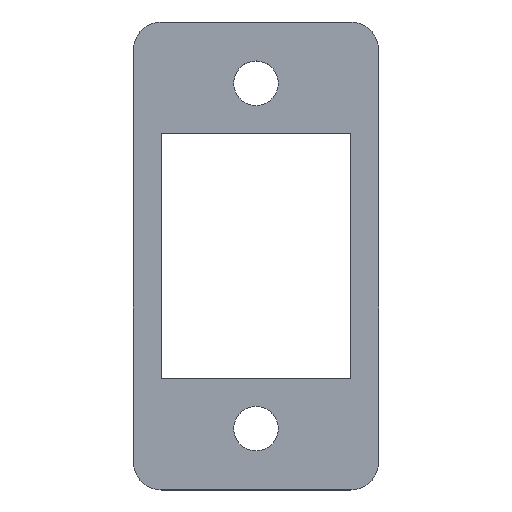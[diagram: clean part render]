
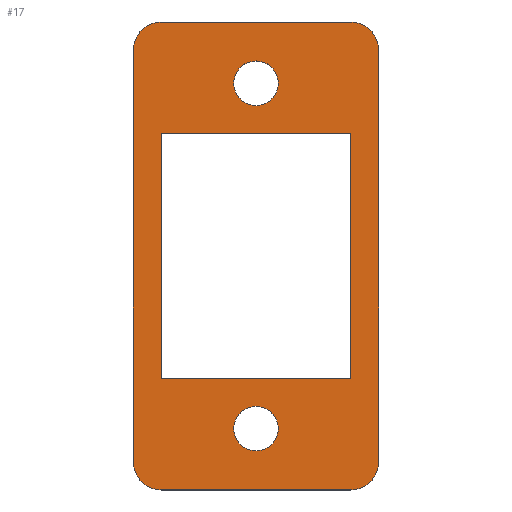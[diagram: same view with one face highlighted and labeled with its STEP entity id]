
A CAD part, top view. The second image highlights one B-rep face of the part: STEP entity #17.
In plain terms, the highlighted planar face has unit normal (0, 0, 1).
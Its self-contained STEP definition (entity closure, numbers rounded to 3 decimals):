
#17 = ADVANCED_FACE('',(#18,#88,#99,#133),#144,.T.);
#18 = FACE_BOUND('',#19,.T.);
#19 = EDGE_LOOP('',(#20,#30,#39,#47,#56,#64,#73,#81));
#20 = ORIENTED_EDGE('',*,*,#21,.T.);
#21 = EDGE_CURVE('',#22,#24,#26,.T.);
#22 = VERTEX_POINT('',#23);
#23 = CARTESIAN_POINT('',(2.5,0.,0.));
#24 = VERTEX_POINT('',#25);
#25 = CARTESIAN_POINT('',(19.5,0.,0.));
#26 = LINE('',#27,#28);
#27 = CARTESIAN_POINT('',(0.,0.,0.));
#28 = VECTOR('',#29,1.);
#29 = DIRECTION('',(1.,0.,0.));
#30 = ORIENTED_EDGE('',*,*,#31,.T.);
#31 = EDGE_CURVE('',#24,#32,#34,.T.);
#32 = VERTEX_POINT('',#33);
#33 = CARTESIAN_POINT('',(22.,2.5,0.));
#34 = CIRCLE('',#35,2.5);
#35 = AXIS2_PLACEMENT_3D('',#36,#37,#38);
#36 = CARTESIAN_POINT('',(19.5,2.5,0.));
#37 = DIRECTION('',(0.,-0.,1.));
#38 = DIRECTION('',(0.,1.,0.));
#39 = ORIENTED_EDGE('',*,*,#40,.T.);
#40 = EDGE_CURVE('',#32,#41,#43,.T.);
#41 = VERTEX_POINT('',#42);
#42 = CARTESIAN_POINT('',(22.,39.5,0.));
#43 = LINE('',#44,#45);
#44 = CARTESIAN_POINT('',(22.,0.,0.));
#45 = VECTOR('',#46,1.);
#46 = DIRECTION('',(0.,1.,0.));
#47 = ORIENTED_EDGE('',*,*,#48,.T.);
#48 = EDGE_CURVE('',#41,#49,#51,.T.);
#49 = VERTEX_POINT('',#50);
#50 = CARTESIAN_POINT('',(19.5,42.,0.));
#51 = CIRCLE('',#52,2.5);
#52 = AXIS2_PLACEMENT_3D('',#53,#54,#55);
#53 = CARTESIAN_POINT('',(19.5,39.5,0.));
#54 = DIRECTION('',(0.,-0.,1.));
#55 = DIRECTION('',(0.,1.,0.));
#56 = ORIENTED_EDGE('',*,*,#57,.T.);
#57 = EDGE_CURVE('',#49,#58,#60,.T.);
#58 = VERTEX_POINT('',#59);
#59 = CARTESIAN_POINT('',(2.5,42.,0.));
#60 = LINE('',#61,#62);
#61 = CARTESIAN_POINT('',(22.,42.,0.));
#62 = VECTOR('',#63,1.);
#63 = DIRECTION('',(-1.,0.,0.));
#64 = ORIENTED_EDGE('',*,*,#65,.T.);
#65 = EDGE_CURVE('',#58,#66,#68,.T.);
#66 = VERTEX_POINT('',#67);
#67 = CARTESIAN_POINT('',(0.,39.5,0.));
#68 = CIRCLE('',#69,2.5);
#69 = AXIS2_PLACEMENT_3D('',#70,#71,#72);
#70 = CARTESIAN_POINT('',(2.5,39.5,0.));
#71 = DIRECTION('',(0.,-0.,1.));
#72 = DIRECTION('',(0.,1.,0.));
#73 = ORIENTED_EDGE('',*,*,#74,.T.);
#74 = EDGE_CURVE('',#66,#75,#77,.T.);
#75 = VERTEX_POINT('',#76);
#76 = CARTESIAN_POINT('',(0.,2.5,0.));
#77 = LINE('',#78,#79);
#78 = CARTESIAN_POINT('',(0.,42.,0.));
#79 = VECTOR('',#80,1.);
#80 = DIRECTION('',(0.,-1.,0.));
#81 = ORIENTED_EDGE('',*,*,#82,.T.);
#82 = EDGE_CURVE('',#75,#22,#83,.T.);
#83 = CIRCLE('',#84,2.5);
#84 = AXIS2_PLACEMENT_3D('',#85,#86,#87);
#85 = CARTESIAN_POINT('',(2.5,2.5,0.));
#86 = DIRECTION('',(0.,-0.,1.));
#87 = DIRECTION('',(0.,1.,0.));
#88 = FACE_BOUND('',#89,.T.);
#89 = EDGE_LOOP('',(#90));
#90 = ORIENTED_EDGE('',*,*,#91,.F.);
#91 = EDGE_CURVE('',#92,#92,#94,.T.);
#92 = VERTEX_POINT('',#93);
#93 = CARTESIAN_POINT('',(13.,5.5,0.));
#94 = CIRCLE('',#95,2.);
#95 = AXIS2_PLACEMENT_3D('',#96,#97,#98);
#96 = CARTESIAN_POINT('',(11.,5.5,0.));
#97 = DIRECTION('',(0.,0.,1.));
#98 = DIRECTION('',(1.,0.,0.));
#99 = FACE_BOUND('',#100,.T.);
#100 = EDGE_LOOP('',(#101,#111,#119,#127));
#101 = ORIENTED_EDGE('',*,*,#102,.T.);
#102 = EDGE_CURVE('',#103,#105,#107,.T.);
#103 = VERTEX_POINT('',#104);
#104 = CARTESIAN_POINT('',(2.5,10.,0.));
#105 = VERTEX_POINT('',#106);
#106 = CARTESIAN_POINT('',(2.5,32.,0.));
#107 = LINE('',#108,#109);
#108 = CARTESIAN_POINT('',(2.5,10.,0.));
#109 = VECTOR('',#110,1.);
#110 = DIRECTION('',(0.,1.,0.));
#111 = ORIENTED_EDGE('',*,*,#112,.T.);
#112 = EDGE_CURVE('',#105,#113,#115,.T.);
#113 = VERTEX_POINT('',#114);
#114 = CARTESIAN_POINT('',(19.5,32.,0.));
#115 = LINE('',#116,#117);
#116 = CARTESIAN_POINT('',(2.5,32.,0.));
#117 = VECTOR('',#118,1.);
#118 = DIRECTION('',(1.,0.,0.));
#119 = ORIENTED_EDGE('',*,*,#120,.T.);
#120 = EDGE_CURVE('',#113,#121,#123,.T.);
#121 = VERTEX_POINT('',#122);
#122 = CARTESIAN_POINT('',(19.5,10.,0.));
#123 = LINE('',#124,#125);
#124 = CARTESIAN_POINT('',(19.5,32.,0.));
#125 = VECTOR('',#126,1.);
#126 = DIRECTION('',(0.,-1.,0.));
#127 = ORIENTED_EDGE('',*,*,#128,.T.);
#128 = EDGE_CURVE('',#121,#103,#129,.T.);
#129 = LINE('',#130,#131);
#130 = CARTESIAN_POINT('',(19.5,10.,0.));
#131 = VECTOR('',#132,1.);
#132 = DIRECTION('',(-1.,0.,0.));
#133 = FACE_BOUND('',#134,.T.);
#134 = EDGE_LOOP('',(#135));
#135 = ORIENTED_EDGE('',*,*,#136,.F.);
#136 = EDGE_CURVE('',#137,#137,#139,.T.);
#137 = VERTEX_POINT('',#138);
#138 = CARTESIAN_POINT('',(13.,36.5,0.));
#139 = CIRCLE('',#140,2.);
#140 = AXIS2_PLACEMENT_3D('',#141,#142,#143);
#141 = CARTESIAN_POINT('',(11.,36.5,0.));
#142 = DIRECTION('',(0.,0.,1.));
#143 = DIRECTION('',(1.,0.,0.));
#144 = PLANE('',#145);
#145 = AXIS2_PLACEMENT_3D('',#146,#147,#148);
#146 = CARTESIAN_POINT('',(11.,21.,0.));
#147 = DIRECTION('',(0.,0.,1.));
#148 = DIRECTION('',(1.,0.,0.));
